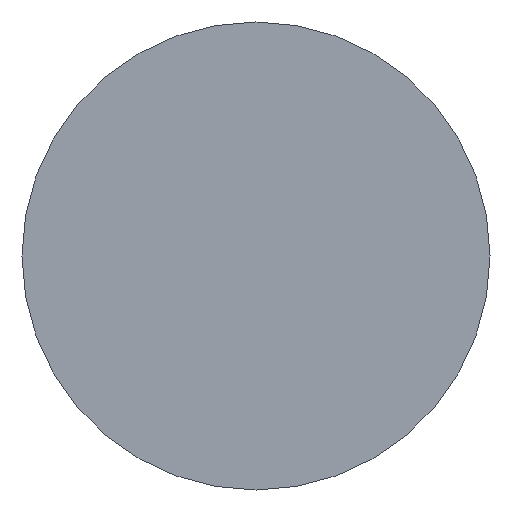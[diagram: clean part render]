
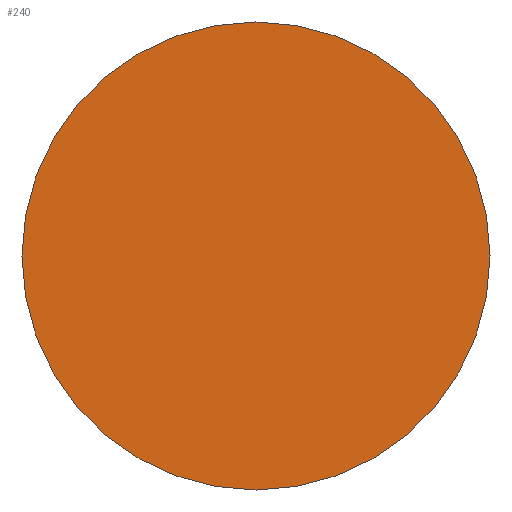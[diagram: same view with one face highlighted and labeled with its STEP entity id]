
A CAD part, left-side view. The second image highlights one B-rep face of the part: STEP entity #240.
In plain terms, the highlighted planar face has unit normal (-1, 0, 0).
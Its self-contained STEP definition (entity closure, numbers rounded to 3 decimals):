
#7 = DIRECTION ( 'NONE',  ( 1., 0., 0. ) ) ;
#9 = EDGE_CURVE ( 'NONE', #139, #207, #134, .T. ) ;
#35 = FACE_OUTER_BOUND ( 'NONE', #74, .T. ) ;
#74 = EDGE_LOOP ( 'NONE', ( #88, #96 ) ) ;
#78 = CARTESIAN_POINT ( 'NONE',  ( 0., 0., 0. ) ) ;
#83 = CIRCLE ( 'NONE', #211, 7. ) ;
#88 = ORIENTED_EDGE ( 'NONE', *, *, #9, .F. ) ;
#93 = CARTESIAN_POINT ( 'NONE',  ( 0., -7., 0. ) ) ;
#96 = ORIENTED_EDGE ( 'NONE', *, *, #158, .F. ) ;
#98 = DIRECTION ( 'NONE',  ( 0., 1., 0. ) ) ;
#108 = DIRECTION ( 'NONE',  ( 0., 1., 0. ) ) ;
#110 = DIRECTION ( 'NONE',  ( 1., 0., 0. ) ) ;
#134 = CIRCLE ( 'NONE', #180, 7. ) ;
#139 = VERTEX_POINT ( 'NONE', #265 ) ;
#149 = PLANE ( 'NONE',  #242 ) ;
#158 = EDGE_CURVE ( 'NONE', #207, #139, #83, .T. ) ;
#180 = AXIS2_PLACEMENT_3D ( 'NONE', #181, #7, #98 ) ;
#181 = CARTESIAN_POINT ( 'NONE',  ( 0., 0., 0. ) ) ;
#207 = VERTEX_POINT ( 'NONE', #93 ) ;
#211 = AXIS2_PLACEMENT_3D ( 'NONE', #260, #110, #108 ) ;
#228 = DIRECTION ( 'NONE',  ( -1., 0., 0. ) ) ;
#240 = ADVANCED_FACE ( 'NONE', ( #35 ), #149, .T. ) ;
#242 = AXIS2_PLACEMENT_3D ( 'NONE', #78, #228, #253 ) ;
#253 = DIRECTION ( 'NONE',  ( 0., -1., 0. ) ) ;
#260 = CARTESIAN_POINT ( 'NONE',  ( 0., 0., 0. ) ) ;
#265 = CARTESIAN_POINT ( 'NONE',  ( 0., 7., 0. ) ) ;
